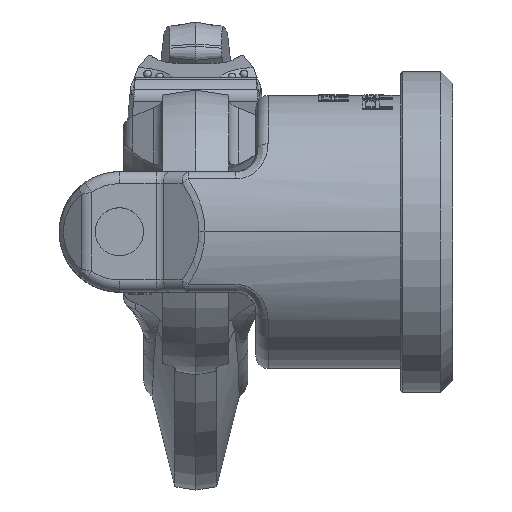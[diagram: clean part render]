
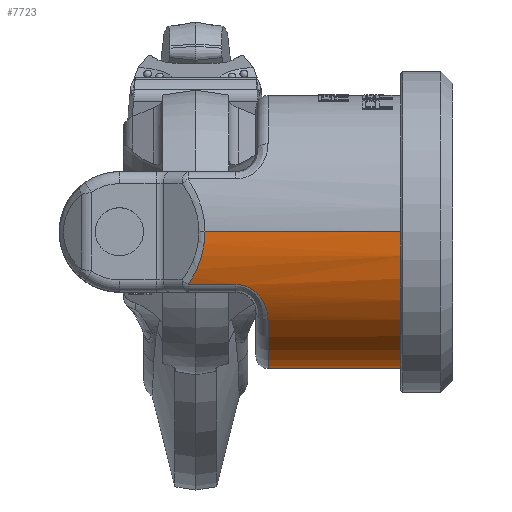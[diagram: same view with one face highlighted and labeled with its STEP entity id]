
A CAD part, top view. The second image highlights one B-rep face of the part: STEP entity #7723.
In plain terms, the highlighted cylindrical face has radius 34 mm (diameter 68 mm), a partial arc.
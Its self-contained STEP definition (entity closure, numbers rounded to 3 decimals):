
#6=CARTESIAN_POINT('',(87.,0.,0.));
#7=DIRECTION('',(1.,0.,0.));
#8=DIRECTION('',(0.,0.,1.));
#9=AXIS2_PLACEMENT_3D('',#6,#7,#8);
#80=DIRECTION('',(1.,0.,0.));
#81=VECTOR('',#80,50.696);
#82=CARTESIAN_POINT('',(36.304,0.,
-34.));
#83=LINE('',#82,#81);
#1528=CARTESIAN_POINT('',(44.,-13.161,31.349));
#1529=CARTESIAN_POINT('',(44.273,-13.161,31.349));
#1530=CARTESIAN_POINT('',(44.802,-13.192,31.337));
#1531=CARTESIAN_POINT('',(45.542,-13.313,31.285));
#1532=CARTESIAN_POINT('',(46.239,-13.5,31.205));
#1533=CARTESIAN_POINT('',(46.897,-13.745,31.098));
#1534=CARTESIAN_POINT('',(47.523,-14.046,30.964));
#1535=CARTESIAN_POINT('',(48.12,-14.402,30.8));
#1536=CARTESIAN_POINT('',(48.678,-14.805,30.608));
#1537=CARTESIAN_POINT('',(49.187,-15.243,30.393));
#1538=CARTESIAN_POINT('',(49.664,-15.725,30.147));
#1539=CARTESIAN_POINT('',(50.122,-16.272,29.855));
#1540=CARTESIAN_POINT('',(50.501,-16.808,29.557));
#1541=CARTESIAN_POINT('',(50.844,-17.373,29.229));
#1542=CARTESIAN_POINT('',(51.171,-18.022,28.834));
#1543=CARTESIAN_POINT('',(51.43,-18.659,28.426));
#1544=CARTESIAN_POINT('',(51.635,-19.289,28.002));
#1545=CARTESIAN_POINT('',(51.793,-19.918,27.559));
#1546=CARTESIAN_POINT('',(51.908,-20.559,27.084));
#1547=CARTESIAN_POINT('',(51.982,-21.223,26.567));
#1548=CARTESIAN_POINT('',(52.,-21.695,26.181));
#1549=CARTESIAN_POINT('',(52.,-21.935,25.978));
#1551=DIRECTION('',(1.,0.,0.));
#1552=VECTOR('',#1551,11.882);
#1553=CARTESIAN_POINT('',(32.118,-13.161,31.349));
#1554=LINE('',#1553,#1552);
#1555=CARTESIAN_POINT('',(36.304,0.,
34.));
#1556=CARTESIAN_POINT('',(36.304,-0.676,
34.));
#1557=CARTESIAN_POINT('',(36.24,-2.046,33.96));
#1558=CARTESIAN_POINT('',(35.939,-4.143,33.769));
#1559=CARTESIAN_POINT('',(35.416,-6.288,33.438));
#1560=CARTESIAN_POINT('',(34.644,-8.498,32.949));
#1561=CARTESIAN_POINT('',(33.563,-10.819,32.264));
#1562=CARTESIAN_POINT('',(32.636,-12.379,31.678));
#1563=CARTESIAN_POINT('',(32.118,-13.161,31.349));
#1565=DIRECTION('',(1.,0.,0.));
#1566=VECTOR('',#1565,50.696);
#1567=CARTESIAN_POINT('',(36.304,0.,
34.));
#1568=LINE('',#1567,#1566);
#1569=CARTESIAN_POINT('',(32.118,-13.161,
-31.349));
#1570=CARTESIAN_POINT('',(32.619,-12.405,
-31.667));
#1571=CARTESIAN_POINT('',(33.516,-10.898,
-32.235));
#1572=CARTESIAN_POINT('',(34.559,-8.696,
-32.895));
#1573=CARTESIAN_POINT('',(35.343,-6.527,
-33.391));
#1574=CARTESIAN_POINT('',(35.893,-4.386,
-33.74));
#1575=CARTESIAN_POINT('',(36.231,-2.186,
-33.954));
#1576=CARTESIAN_POINT('',(36.304,-0.728,
-34.));
#1577=CARTESIAN_POINT('',(36.304,0.,
-34.));
#1579=DIRECTION('',(-1.,0.,0.));
#1580=VECTOR('',#1579,11.882);
#1581=CARTESIAN_POINT('',(44.,-13.161,
-31.349));
#1582=LINE('',#1581,#1580);
#1583=CARTESIAN_POINT('',(52.,-21.935,-25.978));
#1584=CARTESIAN_POINT('',(52.,-21.692,
-26.183));
#1585=CARTESIAN_POINT('',(51.981,-21.215,
-26.574));
#1586=CARTESIAN_POINT('',(51.906,-20.543,
-27.096));
#1587=CARTESIAN_POINT('',(51.789,-19.898,
-27.573));
#1588=CARTESIAN_POINT('',(51.629,-19.269,
-28.016));
#1589=CARTESIAN_POINT('',(51.423,-18.642,
-28.437));
#1590=CARTESIAN_POINT('',(51.164,-18.007,
-28.843));
#1591=CARTESIAN_POINT('',(50.834,-17.355,
-29.24));
#1592=CARTESIAN_POINT('',(50.495,-16.799,
-29.562));
#1593=CARTESIAN_POINT('',(50.112,-16.259,
-29.863));
#1594=CARTESIAN_POINT('',(49.645,-15.703,
-30.158));
#1595=CARTESIAN_POINT('',(49.159,-15.217,
-30.406));
#1596=CARTESIAN_POINT('',(48.644,-14.779,
-30.621));
#1597=CARTESIAN_POINT('',(48.088,-14.381,
-30.81));
#1598=CARTESIAN_POINT('',(47.496,-14.032,
-30.97));
#1599=CARTESIAN_POINT('',(46.875,-13.736,
-31.102));
#1600=CARTESIAN_POINT('',(46.221,-13.495,
-31.208));
#1601=CARTESIAN_POINT('',(45.528,-13.311,
-31.286));
#1602=CARTESIAN_POINT('',(44.793,-13.191,
-31.337));
#1603=CARTESIAN_POINT('',(44.27,-13.161,
-31.349));
#1604=CARTESIAN_POINT('',(44.,-13.161,
-31.349));
#1606=CARTESIAN_POINT('',(52.,0.,0.));
#1607=DIRECTION('',(1.,0.,0.));
#1608=DIRECTION('',(0.,-0.645,0.764));
#1609=AXIS2_PLACEMENT_3D('',#1606,#1607,#1608);
#4929=CARTESIAN_POINT('',(87.,0.,-34.));
#4930=CARTESIAN_POINT('',(87.,0.,34.));
#4931=VERTEX_POINT('',#4929);
#4932=VERTEX_POINT('',#4930);
#4933=CARTESIAN_POINT('',(36.304,0.,
-34.));
#4934=VERTEX_POINT('',#4933);
#4935=CARTESIAN_POINT('',(36.304,0.,
34.));
#4936=VERTEX_POINT('',#4935);
#4943=VERTEX_POINT('',#1528);
#4944=VERTEX_POINT('',#1549);
#4945=CARTESIAN_POINT('',(32.118,-13.161,31.349));
#4946=VERTEX_POINT('',#4945);
#4969=VERTEX_POINT('',#1583);
#4970=VERTEX_POINT('',#1604);
#4975=CARTESIAN_POINT('',(32.118,-13.161,
-31.349));
#4976=VERTEX_POINT('',#4975);
#7700=CARTESIAN_POINT('',(0.,0.,0.));
#7701=DIRECTION('',(1.,0.,0.));
#7702=DIRECTION('',(0.,0.,-1.));
#7703=AXIS2_PLACEMENT_3D('',#7700,#7701,#7702);
#7704=CYLINDRICAL_SURFACE('',#7703,34.);
#7706=ORIENTED_EDGE('',*,*,#7705,.F.);
#7708=ORIENTED_EDGE('',*,*,#7707,.F.);
#7709=ORIENTED_EDGE('',*,*,#7560,.F.);
#7710=ORIENTED_EDGE('',*,*,#6035,.T.);
#7711=ORIENTED_EDGE('',*,*,#6010,.T.);
#7712=ORIENTED_EDGE('',*,*,#6032,.F.);
#7714=ORIENTED_EDGE('',*,*,#7713,.F.);
#7716=ORIENTED_EDGE('',*,*,#7715,.F.);
#7718=ORIENTED_EDGE('',*,*,#7717,.F.);
#7720=ORIENTED_EDGE('',*,*,#7719,.F.);
#7721=EDGE_LOOP('',(#7706,#7708,#7709,#7710,#7711,#7712,#7714,#7716,#7718,
#7720));
#7722=FACE_OUTER_BOUND('',#7721,.F.);
#7723=ADVANCED_FACE('',(#7722),#7704,.T.);
#10=CIRCLE('',#9,34.);
#1550=B_SPLINE_CURVE_WITH_KNOTS('',3,(#1528,#1529,#1530,#1531,#1532,#1533,#1534,
#1535,#1536,#1537,#1538,#1539,#1540,#1541,#1542,#1543,#1544,#1545,#1546,#1547,
#1548,#1549),.UNSPECIFIED.,.F.,.F.,(4,1,1,1,1,1,1,1,1,1,1,1,1,1,1,1,1,1,1,4),(
0.,0.053,0.105,0.158,0.211,
0.263,0.316,0.368,0.421,
0.474,0.526,0.579,0.632,
0.684,0.737,0.789,0.842,
0.895,0.947,1.),.UNSPECIFIED.);
#1564=B_SPLINE_CURVE_WITH_KNOTS('',3,(#1555,#1556,#1557,#1558,#1559,#1560,#1561,
#1562,#1563),.UNSPECIFIED.,.F.,.F.,(4,1,1,1,1,1,4),(0.,0.167,
0.333,0.5,0.667,0.833,1.),
.UNSPECIFIED.);
#1578=B_SPLINE_CURVE_WITH_KNOTS('',3,(#1569,#1570,#1571,#1572,#1573,#1574,#1575,
#1576,#1577),.UNSPECIFIED.,.F.,.F.,(4,1,1,1,1,1,4),(0.,0.167,
0.333,0.5,0.667,0.833,1.),
.UNSPECIFIED.);
#1605=B_SPLINE_CURVE_WITH_KNOTS('',3,(#1583,#1584,#1585,#1586,#1587,#1588,#1589,
#1590,#1591,#1592,#1593,#1594,#1595,#1596,#1597,#1598,#1599,#1600,#1601,#1602,
#1603,#1604),.UNSPECIFIED.,.F.,.F.,(4,1,1,1,1,1,1,1,1,1,1,1,1,1,1,1,1,1,1,4),(
0.,0.053,0.105,0.158,0.211,
0.263,0.316,0.368,0.421,
0.474,0.526,0.579,0.632,
0.684,0.737,0.789,0.842,
0.895,0.947,1.),.UNSPECIFIED.);
#1610=CIRCLE('',#1609,34.);
#6010=EDGE_CURVE('',#4932,#4931,#10,.T.);
#6032=EDGE_CURVE('',#4934,#4931,#83,.T.);
#6035=EDGE_CURVE('',#4936,#4932,#1568,.T.);
#7560=EDGE_CURVE('',#4936,#4946,#1564,.T.);
#7705=EDGE_CURVE('',#4943,#4944,#1550,.T.);
#7707=EDGE_CURVE('',#4946,#4943,#1554,.T.);
#7713=EDGE_CURVE('',#4976,#4934,#1578,.T.);
#7715=EDGE_CURVE('',#4970,#4976,#1582,.T.);
#7717=EDGE_CURVE('',#4969,#4970,#1605,.T.);
#7719=EDGE_CURVE('',#4944,#4969,#1610,.T.);
